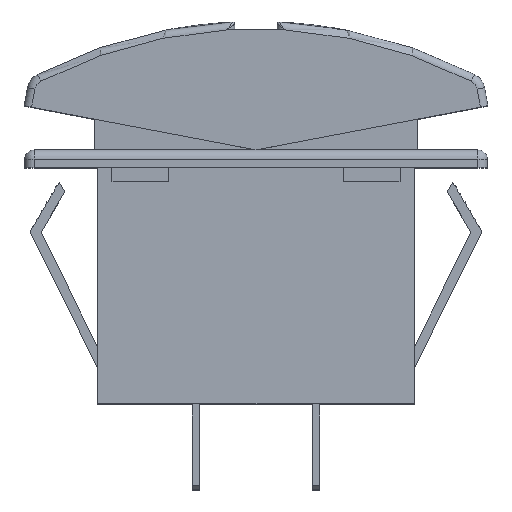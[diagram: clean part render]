
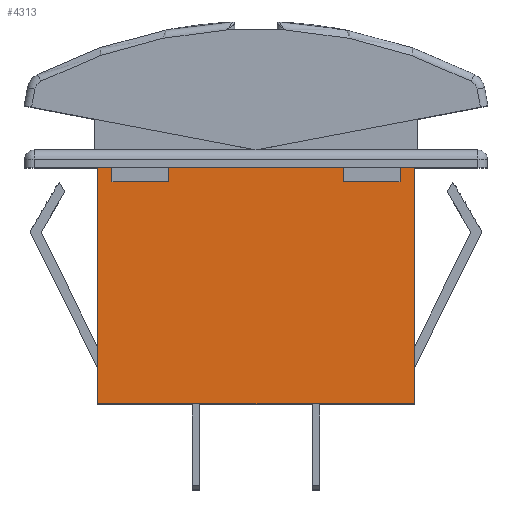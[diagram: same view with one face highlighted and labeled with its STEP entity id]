
A CAD part, top view. The second image highlights one B-rep face of the part: STEP entity #4313.
In plain terms, the highlighted planar face has unit normal (0, 0, 1).
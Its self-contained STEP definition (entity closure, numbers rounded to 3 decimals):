
#332=FACE_OUTER_BOUND('',#574,.T.);
#574=EDGE_LOOP('',(#3296,#3297,#3298,#3299,#3300,#3301,#3302,#3303,#3304,
#3305,#3306,#3307));
#1023=LINE('',#6637,#1534);
#1027=LINE('',#6645,#1538);
#1030=LINE('',#6651,#1541);
#1034=LINE('',#6660,#1545);
#1038=LINE('',#6668,#1549);
#1041=LINE('',#6674,#1552);
#1045=LINE('',#6681,#1556);
#1046=LINE('',#6683,#1557);
#1047=LINE('',#6685,#1558);
#1048=LINE('',#6687,#1559);
#1049=LINE('',#6689,#1560);
#1050=LINE('',#6690,#1561);
#1534=VECTOR('',#5350,10.);
#1538=VECTOR('',#5356,10.);
#1541=VECTOR('',#5361,10.);
#1545=VECTOR('',#5369,10.);
#1549=VECTOR('',#5375,10.);
#1552=VECTOR('',#5380,10.);
#1556=VECTOR('',#5388,10.);
#1557=VECTOR('',#5389,10.);
#1558=VECTOR('',#5390,10.);
#1559=VECTOR('',#5391,10.);
#1560=VECTOR('',#5392,10.);
#1561=VECTOR('',#5393,10.);
#1954=VERTEX_POINT('',#6635);
#1955=VERTEX_POINT('',#6636);
#1958=VERTEX_POINT('',#6644);
#1960=VERTEX_POINT('',#6650);
#1962=VERTEX_POINT('',#6658);
#1963=VERTEX_POINT('',#6659);
#1966=VERTEX_POINT('',#6667);
#1968=VERTEX_POINT('',#6673);
#1970=VERTEX_POINT('',#6682);
#1971=VERTEX_POINT('',#6684);
#1972=VERTEX_POINT('',#6686);
#1973=VERTEX_POINT('',#6688);
#2449=EDGE_CURVE('',#1954,#1955,#1023,.T.);
#2453=EDGE_CURVE('',#1958,#1954,#1027,.T.);
#2456=EDGE_CURVE('',#1960,#1958,#1030,.T.);
#2460=EDGE_CURVE('',#1962,#1963,#1034,.T.);
#2464=EDGE_CURVE('',#1966,#1962,#1038,.T.);
#2467=EDGE_CURVE('',#1968,#1966,#1041,.T.);
#2471=EDGE_CURVE('',#1955,#1968,#1045,.T.);
#2472=EDGE_CURVE('',#1963,#1970,#1046,.T.);
#2473=EDGE_CURVE('',#1970,#1971,#1047,.T.);
#2474=EDGE_CURVE('',#1971,#1972,#1048,.T.);
#2475=EDGE_CURVE('',#1972,#1973,#1049,.T.);
#2476=EDGE_CURVE('',#1973,#1960,#1050,.T.);
#3296=ORIENTED_EDGE('',*,*,#2456,.T.);
#3297=ORIENTED_EDGE('',*,*,#2453,.T.);
#3298=ORIENTED_EDGE('',*,*,#2449,.T.);
#3299=ORIENTED_EDGE('',*,*,#2471,.T.);
#3300=ORIENTED_EDGE('',*,*,#2467,.T.);
#3301=ORIENTED_EDGE('',*,*,#2464,.T.);
#3302=ORIENTED_EDGE('',*,*,#2460,.T.);
#3303=ORIENTED_EDGE('',*,*,#2472,.T.);
#3304=ORIENTED_EDGE('',*,*,#2473,.T.);
#3305=ORIENTED_EDGE('',*,*,#2474,.T.);
#3306=ORIENTED_EDGE('',*,*,#2475,.T.);
#3307=ORIENTED_EDGE('',*,*,#2476,.T.);
#4137=PLANE('',#4613);
#4313=ADVANCED_FACE('',(#332),#4137,.T.);
#4613=AXIS2_PLACEMENT_3D('',#6680,#5386,#5387);
#5350=DIRECTION('',(0.,1.,0.));
#5356=DIRECTION('',(-1.,0.,0.));
#5361=DIRECTION('',(0.,-1.,0.));
#5369=DIRECTION('',(0.,1.,0.));
#5375=DIRECTION('',(-1.,0.,0.));
#5380=DIRECTION('',(0.,-1.,0.));
#5386=DIRECTION('center_axis',(0.,0.,1.));
#5387=DIRECTION('ref_axis',(1.,0.,0.));
#5388=DIRECTION('',(-1.,0.,0.));
#5389=DIRECTION('',(-1.,0.,0.));
#5390=DIRECTION('',(0.,-1.,0.));
#5391=DIRECTION('',(1.,0.,0.));
#5392=DIRECTION('',(0.,1.,0.));
#5393=DIRECTION('',(-1.,0.,0.));
#6635=CARTESIAN_POINT('',(26.,23.5,21.));
#6636=CARTESIAN_POINT('',(26.,25.,21.));
#6637=CARTESIAN_POINT('',(26.,18.,21.));
#6644=CARTESIAN_POINT('',(32.,23.5,21.));
#6645=CARTESIAN_POINT('',(24.375,23.5,21.));
#6650=CARTESIAN_POINT('',(32.,25.,21.));
#6651=CARTESIAN_POINT('',(32.,18.75,21.));
#6658=CARTESIAN_POINT('',(1.5,23.5,21.));
#6659=CARTESIAN_POINT('',(1.5,25.,21.));
#6660=CARTESIAN_POINT('',(1.5,18.,21.));
#6667=CARTESIAN_POINT('',(7.5,23.5,21.));
#6668=CARTESIAN_POINT('',(12.125,23.5,21.));
#6673=CARTESIAN_POINT('',(7.5,25.,21.));
#6674=CARTESIAN_POINT('',(7.5,18.75,21.));
#6680=CARTESIAN_POINT('Origin',(16.75,12.5,21.));
#6681=CARTESIAN_POINT('',(33.5,25.,21.));
#6682=CARTESIAN_POINT('',(0.,25.,21.));
#6683=CARTESIAN_POINT('',(33.5,25.,21.));
#6684=CARTESIAN_POINT('',(0.,0.,21.));
#6685=CARTESIAN_POINT('',(0.,25.,21.));
#6686=CARTESIAN_POINT('',(33.5,0.,21.));
#6687=CARTESIAN_POINT('',(0.,0.,21.));
#6688=CARTESIAN_POINT('',(33.5,25.,21.));
#6689=CARTESIAN_POINT('',(33.5,0.,21.));
#6690=CARTESIAN_POINT('',(33.5,25.,21.));
